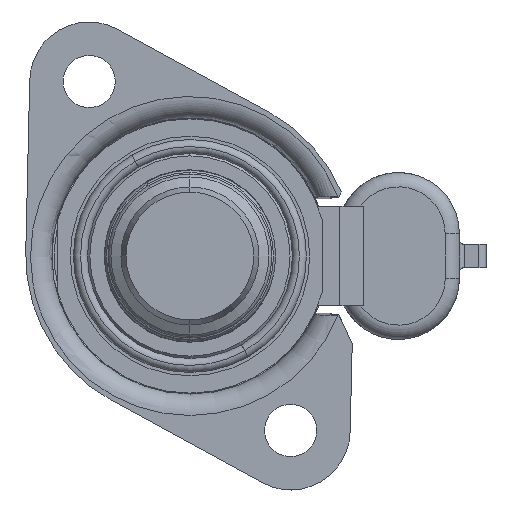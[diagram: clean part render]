
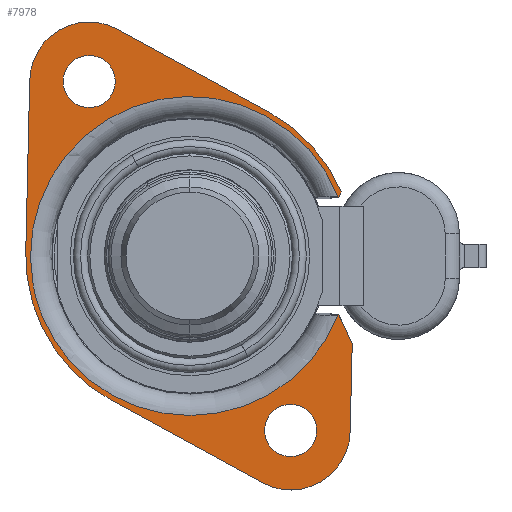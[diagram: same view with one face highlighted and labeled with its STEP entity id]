
A CAD part, front view. The second image highlights one B-rep face of the part: STEP entity #7978.
In plain terms, the highlighted planar face has unit normal (0, -1, 0).
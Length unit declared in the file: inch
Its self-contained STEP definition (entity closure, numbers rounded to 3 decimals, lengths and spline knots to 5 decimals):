
#1367=CARTESIAN_POINT('',(0.6218,0.,0.24952));
#1715=DIRECTION('',(0.423,0.,-0.906));
#1716=VECTOR('',#1715,0.13123);
#1717=CARTESIAN_POINT('',(0.62622,0.,-0.24952));
#1718=LINE('',#1717,#1716);
#1719=DIRECTION('',(-0.023,0.,-1.));
#1720=VECTOR('',#1719,0.37042);
#1721=CARTESIAN_POINT('',(0.68168,0.,-0.36845));
#1722=LINE('',#1721,#1720);
#1723=CARTESIAN_POINT('',(0.4232,0.,-0.733));
#1724=DIRECTION('',(0.,1.,0.));
#1725=DIRECTION('',(1.,0.,-0.023));
#1726=AXIS2_PLACEMENT_3D('',#1723,#1724,#1725);
#1728=CARTESIAN_POINT('',(0.4232,0.,-0.733));
#1729=DIRECTION('',(0.,1.,0.));
#1730=DIRECTION('',(0.5,0.,-0.866));
#1731=AXIS2_PLACEMENT_3D('',#1728,#1729,#1730);
#1733=DIRECTION('',(-0.877,0.,0.48));
#1734=VECTOR('',#1733,0.72304);
#1735=CARTESIAN_POINT('',(0.30323,0.,-0.95234));
#1736=LINE('',#1735,#1734);
#1737=CARTESIAN_POINT('',(0.,0.,0.));
#1738=DIRECTION('',(0.,1.,0.));
#1739=DIRECTION('',(-0.48,0.,-0.877));
#1740=AXIS2_PLACEMENT_3D('',#1737,#1738,#1739);
#1742=DIRECTION('',(0.023,0.,1.));
#1743=VECTOR('',#1742,0.72304);
#1744=CARTESIAN_POINT('',(-0.68982,0.,0.01592));
#1745=LINE('',#1744,#1743);
#1746=CARTESIAN_POINT('',(-0.4232,0.,0.733));
#1747=DIRECTION('',(0.,1.,0.));
#1748=DIRECTION('',(-1.,0.,0.023));
#1749=AXIS2_PLACEMENT_3D('',#1746,#1747,#1748);
#1751=CARTESIAN_POINT('',(-0.4232,0.,0.733));
#1752=DIRECTION('',(0.,1.,0.));
#1753=DIRECTION('',(-0.5,0.,0.866));
#1754=AXIS2_PLACEMENT_3D('',#1751,#1752,#1753);
#1756=DIRECTION('',(0.877,0.,-0.48));
#1757=VECTOR('',#1756,0.72304);
#1758=CARTESIAN_POINT('',(-0.30323,0.,0.95234));
#1759=LINE('',#1758,#1757);
#1760=CARTESIAN_POINT('',(0.,0.,0.));
#1761=DIRECTION('',(0.,1.,0.));
#1762=DIRECTION('',(0.48,0.,0.877));
#1763=AXIS2_PLACEMENT_3D('',#1760,#1761,#1762);
#1765=DIRECTION('',(-0.423,0.,-0.906));
#1766=VECTOR('',#1765,0.02162);
#1767=CARTESIAN_POINT('',(0.63536,0.,0.26911));
#1768=LINE('',#1767,#1766);
#1769=DIRECTION('',(-1.,0.,0.));
#1770=VECTOR('',#1769,0.00442);
#1771=CARTESIAN_POINT('',(0.62622,0.,0.24952));
#1772=LINE('',#1771,#1770);
#1773=CARTESIAN_POINT('',(0.,0.,0.));
#1774=DIRECTION('',(0.,-1.,0.));
#1775=DIRECTION('',(0.928,0.,0.372));
#1776=AXIS2_PLACEMENT_3D('',#1773,#1774,#1775);
#1778=CARTESIAN_POINT('',(0.,0.,0.));
#1779=DIRECTION('',(0.,-1.,0.));
#1780=DIRECTION('',(-0.983,0.,-0.182));
#1781=AXIS2_PLACEMENT_3D('',#1778,#1779,#1780);
#1783=CARTESIAN_POINT('',(0.,0.,0.));
#1784=DIRECTION('',(0.,-1.,0.));
#1785=DIRECTION('',(-0.928,0.,-0.372));
#1786=AXIS2_PLACEMENT_3D('',#1783,#1784,#1785);
#1788=DIRECTION('',(1.,0.,0.));
#1789=VECTOR('',#1788,0.00442);
#1790=CARTESIAN_POINT('',(0.6218,0.,-0.24952));
#1791=LINE('',#1790,#1789);
#1792=CARTESIAN_POINT('',(0.4232,0.,-0.733));
#1793=DIRECTION('',(0.,-1.,0.));
#1794=DIRECTION('',(-0.5,0.,0.866));
#1795=AXIS2_PLACEMENT_3D('',#1792,#1793,#1794);
#1797=CARTESIAN_POINT('',(0.4232,0.,-0.733));
#1798=DIRECTION('',(0.,-1.,0.));
#1799=DIRECTION('',(0.5,0.,-0.866));
#1800=AXIS2_PLACEMENT_3D('',#1797,#1798,#1799);
#1802=CARTESIAN_POINT('',(-0.4232,0.,0.733));
#1803=DIRECTION('',(0.,-1.,0.));
#1804=DIRECTION('',(-0.5,0.,0.866));
#1805=AXIS2_PLACEMENT_3D('',#1802,#1803,#1804);
#1807=CARTESIAN_POINT('',(-0.4232,0.,0.733));
#1808=DIRECTION('',(0.,-1.,0.));
#1809=DIRECTION('',(0.5,0.,-0.866));
#1810=AXIS2_PLACEMENT_3D('',#1807,#1808,#1809);
#4897=VERTEX_POINT('',#1367);
#4898=CARTESIAN_POINT('',(0.62622,0.,0.24952));
#4899=VERTEX_POINT('',#4898);
#4976=CARTESIAN_POINT('',(0.62622,0.,-0.24952));
#4977=VERTEX_POINT('',#4976);
#4978=CARTESIAN_POINT('',(0.6218,0.,-0.24952));
#4979=VERTEX_POINT('',#4978);
#5004=CARTESIAN_POINT('',(-0.65886,0.,-0.12166));
#5005=VERTEX_POINT('',#5004);
#5006=CARTESIAN_POINT('',(-0.6218,0.,-0.24952));
#5007=VERTEX_POINT('',#5006);
#5008=CARTESIAN_POINT('',(0.68168,0.,-0.36845));
#5009=VERTEX_POINT('',#5008);
#5010=CARTESIAN_POINT('',(0.67313,0.,-0.73877));
#5011=VERTEX_POINT('',#5010);
#5012=CARTESIAN_POINT('',(0.5482,0.,-0.94951));
#5013=VERTEX_POINT('',#5012);
#5014=CARTESIAN_POINT('',(0.30323,0.,-0.95234));
#5015=VERTEX_POINT('',#5014);
#5016=CARTESIAN_POINT('',(-0.33112,0.,-0.60536));
#5017=VERTEX_POINT('',#5016);
#5018=CARTESIAN_POINT('',(-0.68982,0.,0.01592));
#5019=VERTEX_POINT('',#5018);
#5020=CARTESIAN_POINT('',(-0.67313,0.,0.73877));
#5021=VERTEX_POINT('',#5020);
#5022=CARTESIAN_POINT('',(-0.5482,0.,0.94951));
#5023=CARTESIAN_POINT('',(-0.30323,0.,0.95234));
#5024=VERTEX_POINT('',#5022);
#5025=VERTEX_POINT('',#5023);
#5026=CARTESIAN_POINT('',(0.33112,0.,0.60536));
#5027=VERTEX_POINT('',#5026);
#5028=CARTESIAN_POINT('',(0.63536,0.,0.26911));
#5029=VERTEX_POINT('',#5028);
#5030=CARTESIAN_POINT('',(0.36845,0.,-0.63817));
#5031=CARTESIAN_POINT('',(0.47795,0.,-0.82783));
#5032=VERTEX_POINT('',#5030);
#5033=VERTEX_POINT('',#5031);
#5034=CARTESIAN_POINT('',(-0.47795,0.,0.82783));
#5035=CARTESIAN_POINT('',(-0.36845,0.,0.63817));
#5036=VERTEX_POINT('',#5034);
#5037=VERTEX_POINT('',#5035);
#7930=CARTESIAN_POINT('',(0.,0.,0.));
#7931=DIRECTION('',(0.,-1.,0.));
#7932=DIRECTION('',(0.5,0.,-0.866));
#7933=AXIS2_PLACEMENT_3D('',#7930,#7931,#7932);
#7934=PLANE('',#7933);
#7936=ORIENTED_EDGE('',*,*,#7935,.T.);
#7938=ORIENTED_EDGE('',*,*,#7937,.T.);
#7940=ORIENTED_EDGE('',*,*,#7939,.T.);
#7942=ORIENTED_EDGE('',*,*,#7941,.T.);
#7944=ORIENTED_EDGE('',*,*,#7943,.T.);
#7946=ORIENTED_EDGE('',*,*,#7945,.T.);
#7948=ORIENTED_EDGE('',*,*,#7947,.T.);
#7950=ORIENTED_EDGE('',*,*,#7949,.T.);
#7952=ORIENTED_EDGE('',*,*,#7951,.T.);
#7954=ORIENTED_EDGE('',*,*,#7953,.T.);
#7956=ORIENTED_EDGE('',*,*,#7955,.T.);
#7958=ORIENTED_EDGE('',*,*,#7957,.T.);
#7959=ORIENTED_EDGE('',*,*,#7609,.T.);
#7960=ORIENTED_EDGE('',*,*,#7924,.T.);
#7961=ORIENTED_EDGE('',*,*,#7922,.T.);
#7962=ORIENTED_EDGE('',*,*,#7920,.T.);
#7963=ORIENTED_EDGE('',*,*,#7521,.T.);
#7964=EDGE_LOOP('',(#7936,#7938,#7940,#7942,#7944,#7946,#7948,#7950,#7952,#7954,
#7956,#7958,#7959,#7960,#7961,#7962,#7963));
#7965=FACE_OUTER_BOUND('',#7964,.F.);
#7967=ORIENTED_EDGE('',*,*,#7966,.T.);
#7969=ORIENTED_EDGE('',*,*,#7968,.T.);
#7970=EDGE_LOOP('',(#7967,#7969));
#7971=FACE_BOUND('',#7970,.F.);
#7973=ORIENTED_EDGE('',*,*,#7972,.T.);
#7975=ORIENTED_EDGE('',*,*,#7974,.T.);
#7976=EDGE_LOOP('',(#7973,#7975));
#7977=FACE_BOUND('',#7976,.F.);
#7978=ADVANCED_FACE('',(#7965,#7971,#7977),#7934,.T.);
#1727=CIRCLE('',#1726,0.25);
#1732=CIRCLE('',#1731,0.25);
#1741=CIRCLE('',#1740,0.69);
#1750=CIRCLE('',#1749,0.25);
#1755=CIRCLE('',#1754,0.25);
#1764=CIRCLE('',#1763,0.69);
#1777=CIRCLE('',#1776,0.67);
#1782=CIRCLE('',#1781,0.67);
#1787=CIRCLE('',#1786,0.67);
#1796=CIRCLE('',#1795,0.1095);
#1801=CIRCLE('',#1800,0.1095);
#1806=CIRCLE('',#1805,0.1095);
#1811=CIRCLE('',#1810,0.1095);
#7521=EDGE_CURVE('',#4979,#4977,#1791,.T.);
#7609=EDGE_CURVE('',#4899,#4897,#1772,.T.);
#7920=EDGE_CURVE('',#5007,#4979,#1787,.T.);
#7922=EDGE_CURVE('',#5005,#5007,#1782,.T.);
#7924=EDGE_CURVE('',#4897,#5005,#1777,.T.);
#7935=EDGE_CURVE('',#4977,#5009,#1718,.T.);
#7937=EDGE_CURVE('',#5009,#5011,#1722,.T.);
#7939=EDGE_CURVE('',#5011,#5013,#1727,.T.);
#7941=EDGE_CURVE('',#5013,#5015,#1732,.T.);
#7943=EDGE_CURVE('',#5015,#5017,#1736,.T.);
#7945=EDGE_CURVE('',#5017,#5019,#1741,.T.);
#7947=EDGE_CURVE('',#5019,#5021,#1745,.T.);
#7949=EDGE_CURVE('',#5021,#5024,#1750,.T.);
#7951=EDGE_CURVE('',#5024,#5025,#1755,.T.);
#7953=EDGE_CURVE('',#5025,#5027,#1759,.T.);
#7955=EDGE_CURVE('',#5027,#5029,#1764,.T.);
#7957=EDGE_CURVE('',#5029,#4899,#1768,.T.);
#7966=EDGE_CURVE('',#5032,#5033,#1796,.T.);
#7968=EDGE_CURVE('',#5033,#5032,#1801,.T.);
#7972=EDGE_CURVE('',#5036,#5037,#1806,.T.);
#7974=EDGE_CURVE('',#5037,#5036,#1811,.T.);
